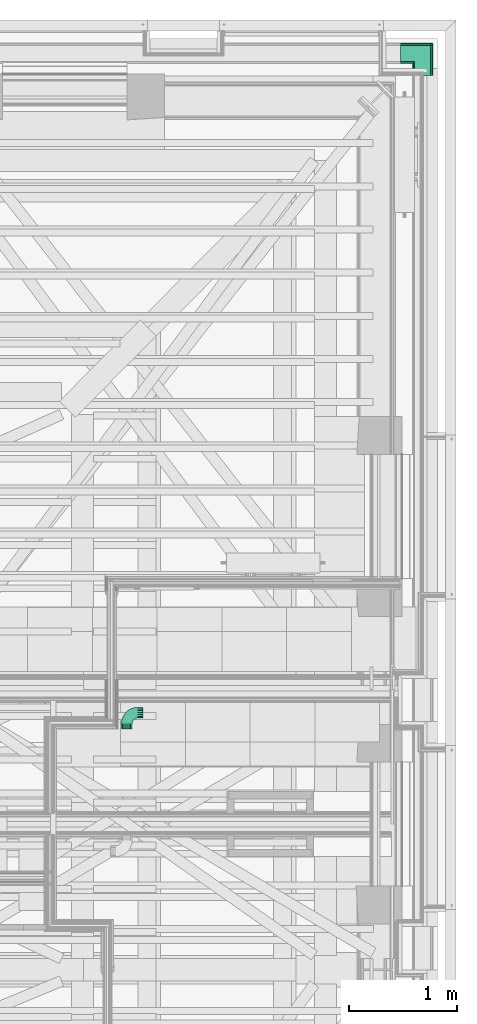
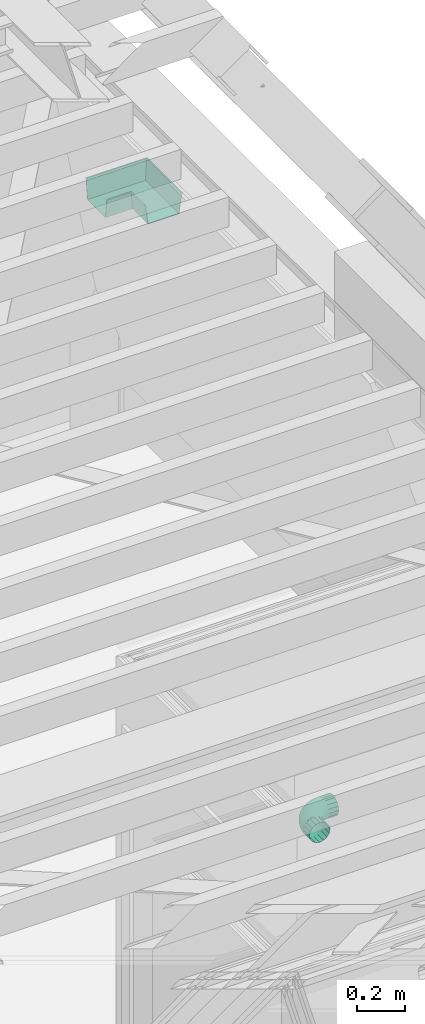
# One storey, part 179 of 183: 2 flow fittings.
"""IFC2X3 building model written with IfcOpenShell, lengths in metres."""

from ifc_helpers import new_model, entity, si_unit, converted_unit, derived_unit, money_unit, direction, frame, origin_with_axes, place, context, subcontext, project, spatial, open_shell, faceted_brep, surface_model, material, type_object, element, save


model = new_model("IFC2X3")

# Units and contexts
model_context = context("Model", 3, precision=1e-05, world=origin_with_axes(), true_north=direction((0.0, 1.0)))
body_context = subcontext(model_context, "Body", "Model", "MODEL_VIEW", scale=1.0)
ifc_project = project(units=[si_unit("LENGTHUNIT", "METRE"), si_unit("AREAUNIT", "SQUARE_METRE"), si_unit("VOLUMEUNIT", "CUBIC_METRE"), si_unit("ABSORBEDDOSEUNIT", "GRAY"), si_unit("AMOUNTOFSUBSTANCEUNIT", "MOLE"), si_unit("DOSEEQUIVALENTUNIT", "SIEVERT"), si_unit("ELECTRICCAPACITANCEUNIT", "FARAD"), si_unit("ELECTRICCHARGEUNIT", "COULOMB"), si_unit("ELECTRICCONDUCTANCEUNIT", "SIEMENS"), si_unit("ELECTRICCURRENTUNIT", "AMPERE"), si_unit("ELECTRICRESISTANCEUNIT", "OHM"), si_unit("ELECTRICVOLTAGEUNIT", "VOLT"), si_unit("ENERGYUNIT", "JOULE"), si_unit("FORCEUNIT", "NEWTON"), si_unit("FREQUENCYUNIT", "HERTZ"), si_unit("ILLUMINANCEUNIT", "LUX"), si_unit("INDUCTANCEUNIT", "HENRY"), si_unit("LUMINOUSFLUXUNIT", "LUMEN"), si_unit("LUMINOUSINTENSITYUNIT", "CANDELA"), si_unit("MAGNETICFLUXDENSITYUNIT", "TESLA"), si_unit("MAGNETICFLUXUNIT", "WEBER"), si_unit("MASSUNIT", "GRAM"), converted_unit("PLANEANGLEUNIT", "degree", entity("IfcReal", 0.0174532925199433), si_unit("PLANEANGLEUNIT", "RADIAN"), dimensions=[0, 0, 0, 0, 0, 0, 0]), si_unit("POWERUNIT", "WATT"), si_unit("PRESSUREUNIT", "PASCAL"), si_unit("RADIOACTIVITYUNIT", "BECQUEREL"), si_unit("SOLIDANGLEUNIT", "STERADIAN"), si_unit("THERMODYNAMICTEMPERATUREUNIT", "KELVIN"), si_unit("TIMEUNIT", "SECOND"), derived_unit("ACCELERATIONUNIT", [(si_unit("LENGTHUNIT", "METRE"), 1), (si_unit("TIMEUNIT", "SECOND"), -2)]), derived_unit("ANGULARVELOCITYUNIT", [(converted_unit("PLANEANGLEUNIT", "degree", entity("IfcReal", 0.0174532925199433), si_unit("PLANEANGLEUNIT", "RADIAN"), dimensions=[0, 0, 0, 0, 0, 0, 0]), 1), (si_unit("TIMEUNIT", "SECOND"), -1)]), derived_unit("CURVATUREUNIT", [(converted_unit("PLANEANGLEUNIT", "degree", entity("IfcReal", 0.0174532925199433), si_unit("PLANEANGLEUNIT", "RADIAN"), dimensions=[0, 0, 0, 0, 0, 0, 0]), 1), (si_unit("LENGTHUNIT", "METRE"), -1)]), derived_unit("DYNAMICVISCOSITYUNIT", [(si_unit("PRESSUREUNIT", "PASCAL"), 1), (si_unit("TIMEUNIT", "SECOND"), 1)]), derived_unit("HEATFLUXDENSITYUNIT", [(si_unit("POWERUNIT", "WATT"), 1), (si_unit("LENGTHUNIT", "METRE"), -2)]), derived_unit("HEATINGVALUEUNIT", [(si_unit("ENERGYUNIT", "JOULE"), 1), (si_unit("MASSUNIT", "GRAM"), -1)]), derived_unit("INTEGERCOUNTRATEUNIT", [(si_unit("TIMEUNIT", "SECOND"), -1)]), derived_unit("IONCONCENTRATIONUNIT", [(si_unit("MASSUNIT", "GRAM"), 1), (si_unit("VOLUMEUNIT", "CUBIC_METRE"), -1)]), derived_unit("ISOTHERMALMOISTURECAPACITYUNIT", [(si_unit("VOLUMEUNIT", "CUBIC_METRE"), 1), (si_unit("MASSUNIT", "GRAM"), -1)]), derived_unit("KINEMATICVISCOSITYUNIT", [(si_unit("AREAUNIT", "SQUARE_METRE"), 1), (si_unit("TIMEUNIT", "SECOND"), -1)]), derived_unit("LINEARFORCEUNIT", [(si_unit("FORCEUNIT", "NEWTON"), 1), (si_unit("LENGTHUNIT", "METRE"), -1)]), derived_unit("LINEARMOMENTUNIT", [(si_unit("FORCEUNIT", "NEWTON"), 1), (si_unit("LENGTHUNIT", "METRE"), -1)]), derived_unit("LINEARSTIFFNESSUNIT", [(si_unit("FORCEUNIT", "NEWTON"), 1), (si_unit("LENGTHUNIT", "METRE"), -1)]), derived_unit("LINEARVELOCITYUNIT", [(si_unit("LENGTHUNIT", "METRE"), 1), (si_unit("TIMEUNIT", "SECOND"), -1)]), derived_unit("LUMINOUSINTENSITYDISTRIBUTIONUNIT", [(si_unit("LUMINOUSINTENSITYUNIT", "CANDELA"), 1), (si_unit("LUMINOUSFLUXUNIT", "LUMEN"), -1)]), derived_unit("MASSDENSITYUNIT", [(si_unit("MASSUNIT", "GRAM"), 1), (si_unit("VOLUMEUNIT", "CUBIC_METRE"), -1)]), derived_unit("MASSFLOWRATEUNIT", [(si_unit("MASSUNIT", "GRAM"), 1), (si_unit("TIMEUNIT", "SECOND"), -1)]), derived_unit("MASSPERLENGTHUNIT", [(si_unit("MASSUNIT", "GRAM"), 1), (si_unit("LENGTHUNIT", "METRE"), -1)]), derived_unit("MODULUSOFELASTICITYUNIT", [(si_unit("FORCEUNIT", "NEWTON"), 1), (si_unit("AREAUNIT", "SQUARE_METRE"), -1)]), derived_unit("MODULUSOFLINEARSUBGRADEREACTIONUNIT", [(si_unit("FORCEUNIT", "NEWTON"), 1), (si_unit("LENGTHUNIT", "METRE"), -2)]), derived_unit("MODULUSOFROTATIONALSUBGRADEREACTIONUNIT", [(si_unit("FORCEUNIT", "NEWTON"), 1), (si_unit("LENGTHUNIT", "METRE"), 1)]), derived_unit("MODULUSOFSUBGRADEREACTIONUNIT", [(si_unit("FORCEUNIT", "NEWTON"), 1), (si_unit("VOLUMEUNIT", "CUBIC_METRE"), -1)]), derived_unit("MOISTUREDIFFUSIVITYUNIT", [(si_unit("VOLUMEUNIT", "CUBIC_METRE"), 1), (si_unit("TIMEUNIT", "SECOND"), -1)]), derived_unit("MOLECULARWEIGHTUNIT", [(si_unit("MASSUNIT", "GRAM"), 1), (si_unit("AMOUNTOFSUBSTANCEUNIT", "MOLE"), -1)]), derived_unit("PLANARFORCEUNIT", [(si_unit("FORCEUNIT", "NEWTON"), 1), (si_unit("LENGTHUNIT", "METRE"), -2)]), derived_unit("ROTATIONALFREQUENCYUNIT", [(si_unit("TIMEUNIT", "SECOND"), -1)]), derived_unit("ROTATIONALMASSUNIT", [(si_unit("MASSUNIT", "GRAM"), 1), (si_unit("LENGTHUNIT", "METRE"), 2)]), derived_unit("ROTATIONALSTIFFNESSUNIT", [(si_unit("FORCEUNIT", "NEWTON"), 1), (si_unit("LENGTHUNIT", "METRE"), 1), (converted_unit("PLANEANGLEUNIT", "degree", entity("IfcReal", 0.0174532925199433), si_unit("PLANEANGLEUNIT", "RADIAN"), dimensions=[0, 0, 0, 0, 0, 0, 0]), -1)]), derived_unit("SECTIONAREAINTEGRALUNIT", [(si_unit("LENGTHUNIT", "METRE"), 5)]), derived_unit("SECTIONMODULUSUNIT", [(si_unit("LENGTHUNIT", "METRE"), 3)]), derived_unit("SHEARMODULUSUNIT", [(si_unit("FORCEUNIT", "NEWTON"), 1), (si_unit("AREAUNIT", "SQUARE_METRE"), -1)]), derived_unit("SOUNDPOWERUNIT", [(si_unit("ENERGYUNIT", "JOULE"), 1), (si_unit("TIMEUNIT", "SECOND"), -1)]), derived_unit("SPECIFICHEATCAPACITYUNIT", [(si_unit("FORCEUNIT", "NEWTON"), 1), (si_unit("MASSUNIT", "GRAM"), -1), (si_unit("THERMODYNAMICTEMPERATUREUNIT", "KELVIN"), -1)]), derived_unit("TEMPERATUREGRADIENTUNIT", [(si_unit("THERMODYNAMICTEMPERATUREUNIT", "KELVIN"), 1), (si_unit("LENGTHUNIT", "METRE"), -1)]), derived_unit("THERMALADMITTANCEUNIT", [(si_unit("POWERUNIT", "WATT"), 1), (si_unit("AREAUNIT", "SQUARE_METRE"), -1), (si_unit("THERMODYNAMICTEMPERATUREUNIT", "KELVIN"), -1)]), derived_unit("THERMALCONDUCTANCEUNIT", [(si_unit("POWERUNIT", "WATT"), 1), (si_unit("LENGTHUNIT", "METRE"), -1), (si_unit("THERMODYNAMICTEMPERATUREUNIT", "KELVIN"), -1)]), derived_unit("THERMALEXPANSIONCOEFFICIENTUNIT", [(si_unit("THERMODYNAMICTEMPERATUREUNIT", "KELVIN"), -1)]), derived_unit("THERMALRESISTANCEUNIT", [(si_unit("AREAUNIT", "SQUARE_METRE"), 1), (si_unit("POWERUNIT", "WATT"), -1)]), derived_unit("THERMALTRANSMITTANCEUNIT", [(si_unit("POWERUNIT", "WATT"), 1), (si_unit("AREAUNIT", "SQUARE_METRE"), -1), (si_unit("THERMODYNAMICTEMPERATUREUNIT", "KELVIN"), -1)]), derived_unit("TORQUEUNIT", [(si_unit("FORCEUNIT", "NEWTON"), 1), (si_unit("LENGTHUNIT", "METRE"), 1)]), derived_unit("VAPORPERMEABILITYUNIT", [(si_unit("MASSUNIT", "GRAM"), 1), (si_unit("TIMEUNIT", "SECOND"), -1)]), derived_unit("VOLUMETRICFLOWRATEUNIT", [(si_unit("VOLUMEUNIT", "CUBIC_METRE"), 1), (si_unit("TIMEUNIT", "SECOND"), -1)]), derived_unit("WARPINGCONSTANTUNIT", [(si_unit("LENGTHUNIT", "METRE"), 6)]), derived_unit("WARPINGMOMENTUNIT", [(si_unit("FORCEUNIT", "NEWTON"), 1), (si_unit("LENGTHUNIT", "METRE"), 2)]), money_unit("GBP")], contexts=[model_context])

# Site, building, storey, space
site_placement = place(None, origin_with_axes())
site = spatial("IfcSite", under=ifc_project, at=site_placement, Name="Site", CompositionType="ELEMENT")
building_placement = place(site_placement, origin_with_axes())
building = spatial("IfcBuilding", under=site, at=building_placement, Name="Building01", CompositionType="ELEMENT")
storey_placement = place(building_placement, frame((0.0, 0.0, 5.15), z_axis=(0.0, 0.0, 1.0), x_axis=(1.0, 0.0, 0.0)))
storey = spatial("IfcBuildingStorey", under=building, at=storey_placement, Name="1F", CompositionType="ELEMENT", Elevation=5.15)
space_placement = place(storey_placement, frame((23.258821, 8.349915, 9.81), z_axis=(0.0, 0.0, 1.0), x_axis=(0.0, -1.0, 0.0)))
space = spatial("IfcSpace", under=storey, at=space_placement, Name="ensuite", CompositionType="ELEMENT", InteriorOrExteriorSpace="NOTDEFINED")

# Flow fittings
ifc_material_1 = material(Name="M_BSUK_Ventilation")
duct_fitting_type = type_object("IfcDuctFittingType", Name="M-Roundelbow-DefaultRound", PredefinedType="BEND")
placement = place(building_placement, origin_with_axes())
flow_fitting_1_placement = place(placement, frame((24.03, 8.482559, 17.28), z_axis=(0.0, 1.0, 0.0), x_axis=(-1.0, 0.0, 0.0)))
element("IfcFlowFitting", 1, at=flow_fitting_1_placement, inside=space, type_object=duct_fitting_type, material=ifc_material_1, Name="M-Roundelbow-DefaultRound", ObjectType="M-Roundelbow-DefaultRound", context=body_context, shape_type="SurfaceModel", body=[
    surface_model("IfcShellBasedSurfaceModel", [(0.008112, -0.01349, -0.048784), (0.0, -0.01349, -0.048146), (0.0, 0.0, -0.05), (0.007822, 0.0, -0.050616), (0.016024, -0.01349, -0.050684), (0.015451, 0.0, -0.052447), (0.023541, -0.01349, -0.053798), (0.0227, 0.0, -0.05545), (0.030479, -0.01349, -0.058049), (0.029389, 0.0, -0.059549), (0.036666, -0.01349, -0.063334), (0.035355, 0.0, -0.064645), (0.041951, -0.01349, -0.069521), (0.040451, 0.0, -0.070611), (0.046202, -0.01349, -0.076459), (0.04455, 0.0, -0.0773), (0.049316, -0.01349, -0.083976), (0.047553, 0.0, -0.084549), (0.051216, -0.01349, -0.091888), (0.049384, 0.0, -0.092178), (0.051854, -0.01349, -0.1), (0.05, 0.0, -0.1), (0.00896, -0.025979, -0.043426), (0.0, -0.025979, -0.042721), (0.0177, -0.025979, -0.045524), (0.026004, -0.025979, -0.048964), (0.033668, -0.025979, -0.05366), (0.040502, -0.025979, -0.059498), (0.04634, -0.025979, -0.066332), (0.051036, -0.025979, -0.073996), (0.054476, -0.025979, -0.0823), (0.056574, -0.025979, -0.09104), (0.057279, -0.025979, -0.1), (0.010305, -0.036542, -0.034939), (0.0, -0.036542, -0.034128), (0.020356, -0.036542, -0.037352), (0.029905, -0.036542, -0.041307), (0.038719, -0.036542, -0.046708), (0.046579, -0.036542, -0.053421), (0.053292, -0.036542, -0.061281), (0.058693, -0.036542, -0.070095), (0.062648, -0.036542, -0.079644), (0.065061, -0.036542, -0.089695), (0.065872, -0.036542, -0.1), (0.012045, -0.044394, -0.023951), (0.0, -0.044394, -0.023003), (0.023793, -0.044394, -0.026772), (0.034956, -0.044394, -0.031395), (0.045258, -0.044394, -0.037708), (0.054445, -0.044394, -0.045555), (0.062292, -0.044394, -0.054742), (0.068605, -0.044394, -0.065044), (0.073228, -0.044394, -0.076207), (0.076049, -0.044394, -0.087955), (0.076997, -0.044394, -0.1), (0.014052, -0.048954, -0.011279), (0.0, -0.048954, -0.010173), (0.027758, -0.048954, -0.014569), (0.040781, -0.048954, -0.019963), (0.052799, -0.048954, -0.027328), (0.063517, -0.048954, -0.036483), (0.072672, -0.048954, -0.047201), (0.080037, -0.048954, -0.059219), (0.085431, -0.048954, -0.072242), (0.088721, -0.048954, -0.085948), (0.089827, -0.048954, -0.1), (0.016177, -0.049883, 0.002139), (0.0, -0.049883, 0.003412), (0.031956, -0.049883, -0.001649), (0.046948, -0.049883, -0.007859), (0.060784, -0.049883, -0.016338), (0.073123, -0.049883, -0.026877), (0.083662, -0.049883, -0.039216), (0.092141, -0.049883, -0.053052), (0.098351, -0.049883, -0.068044), (0.102139, -0.049883, -0.083823), (0.103412, -0.049883, -0.1), (0.018263, -0.047113, 0.015307), (0.0, -0.047113, 0.016744), (0.036076, -0.047113, 0.01103), (0.053001, -0.047113, 0.00402), (0.06862, -0.047113, -0.005552), (0.08255, -0.047113, -0.01745), (0.094448, -0.047113, -0.03138), (0.10402, -0.047113, -0.046999), (0.11103, -0.047113, -0.063924), (0.115307, -0.047113, -0.081737), (0.116744, -0.047113, -0.1), (0.020154, -0.040848, 0.027248), (0.0, -0.040848, 0.028834), (0.039812, -0.040848, 0.022528), (0.058489, -0.040848, 0.014792), (0.075727, -0.040848, 0.004229), (0.091099, -0.040848, -0.008901), (0.104229, -0.040848, -0.024273), (0.114792, -0.040848, -0.041511), (0.122528, -0.040848, -0.060188), (0.127248, -0.040848, -0.079846), (0.128834, -0.040848, -0.1), (0.021711, -0.031554, 0.037077), (0.0, -0.031554, 0.038786), (0.042887, -0.031554, 0.031993), (0.063007, -0.031554, 0.023659), (0.081576, -0.031554, 0.01228), (0.098136, -0.031554, -0.001864), (0.11228, -0.031554, -0.018424), (0.123659, -0.031554, -0.036993), (0.131993, -0.031554, -0.057113), (0.137077, -0.031554, -0.078289), (0.138786, -0.031554, -0.1), (0.022818, -0.01992, 0.044065), (0.0, -0.01992, 0.045861), (0.045073, -0.01992, 0.038722), (0.066219, -0.01992, 0.029963), (0.085735, -0.01992, 0.018004), (0.103139, -0.01992, 0.003139), (0.118004, -0.01992, -0.014265), (0.129963, -0.01992, -0.033781), (0.138722, -0.01992, -0.054927), (0.144065, -0.01992, -0.077182), (0.145861, -0.01992, -0.1), (0.023392, -0.006808, 0.047693), (0.0, -0.006808, 0.049534), (0.046209, -0.006808, 0.042216), (0.067887, -0.006808, 0.033236), (0.087894, -0.006808, 0.020976), (0.105737, -0.006808, 0.005737), (0.120976, -0.006808, -0.012106), (0.133236, -0.006808, -0.032113), (0.142216, -0.006808, -0.053791), (0.147693, -0.006808, -0.076608), (0.149534, -0.006808, -0.1), (0.023392, 0.006808, 0.047693), (0.0, 0.006808, 0.049534), (0.046209, 0.006808, 0.042216), (0.067887, 0.006808, 0.033236), (0.087894, 0.006808, 0.020976), (0.105737, 0.006808, 0.005737), (0.120976, 0.006808, -0.012106), (0.133236, 0.006808, -0.032113), (0.142216, 0.006808, -0.053791), (0.147693, 0.006808, -0.076608), (0.149534, 0.006808, -0.1), (0.022818, 0.01992, 0.044065), (0.0, 0.01992, 0.045861), (0.045073, 0.01992, 0.038722), (0.066219, 0.01992, 0.029963), (0.085735, 0.01992, 0.018004), (0.103139, 0.01992, 0.003139), (0.118004, 0.01992, -0.014265), (0.129963, 0.01992, -0.033781), (0.138722, 0.01992, -0.054927), (0.144065, 0.01992, -0.077182), (0.145861, 0.01992, -0.1), (0.021711, 0.031554, 0.037077), (0.0, 0.031554, 0.038786), (0.042887, 0.031554, 0.031993), (0.063007, 0.031554, 0.023659), (0.081576, 0.031554, 0.01228), (0.098136, 0.031554, -0.001864), (0.11228, 0.031554, -0.018424), (0.123659, 0.031554, -0.036993), (0.131993, 0.031554, -0.057113), (0.137077, 0.031554, -0.078289), (0.138786, 0.031554, -0.1), (0.020154, 0.040848, 0.027248), (0.0, 0.040848, 0.028834), (0.039812, 0.040848, 0.022528), (0.058489, 0.040848, 0.014792), (0.075727, 0.040848, 0.004229), (0.091099, 0.040848, -0.008901), (0.104229, 0.040848, -0.024273), (0.114792, 0.040848, -0.041511), (0.122528, 0.040848, -0.060188), (0.127248, 0.040848, -0.079846), (0.128834, 0.040848, -0.1), (0.018263, 0.047113, 0.015307), (0.0, 0.047113, 0.016744), (0.036076, 0.047113, 0.01103), (0.053001, 0.047113, 0.00402), (0.06862, 0.047113, -0.005552), (0.08255, 0.047113, -0.01745), (0.094448, 0.047113, -0.03138), (0.10402, 0.047113, -0.046999), (0.11103, 0.047113, -0.063924), (0.115307, 0.047113, -0.081737), (0.116744, 0.047113, -0.1), (0.016177, 0.049883, 0.002139), (0.0, 0.049883, 0.003412), (0.031956, 0.049883, -0.001649), (0.046948, 0.049883, -0.007859), (0.060784, 0.049883, -0.016338), (0.073123, 0.049883, -0.026877), (0.083662, 0.049883, -0.039216), (0.092141, 0.049883, -0.053052), (0.098351, 0.049883, -0.068044), (0.102139, 0.049883, -0.083823), (0.103412, 0.049883, -0.1), (0.014052, 0.048954, -0.011279), (0.0, 0.048954, -0.010173), (0.027758, 0.048954, -0.014569), (0.040781, 0.048954, -0.019963), (0.052799, 0.048954, -0.027328), (0.063517, 0.048954, -0.036483), (0.072672, 0.048954, -0.047201), (0.080037, 0.048954, -0.059219), (0.085431, 0.048954, -0.072242), (0.088721, 0.048954, -0.085948), (0.089827, 0.048954, -0.1), (0.012045, 0.044394, -0.023951), (0.0, 0.044394, -0.023003), (0.023793, 0.044394, -0.026772), (0.034956, 0.044394, -0.031395), (0.045258, 0.044394, -0.037708), (0.054445, 0.044394, -0.045555), (0.062292, 0.044394, -0.054742), (0.068605, 0.044394, -0.065044), (0.073228, 0.044394, -0.076207), (0.076049, 0.044394, -0.087955), (0.076997, 0.044394, -0.1), (0.010305, 0.036542, -0.034939), (0.0, 0.036542, -0.034128), (0.020356, 0.036542, -0.037352), (0.029905, 0.036542, -0.041307), (0.038719, 0.036542, -0.046708), (0.046579, 0.036542, -0.053421), (0.053292, 0.036542, -0.061281), (0.058693, 0.036542, -0.070095), (0.062648, 0.036542, -0.079644), (0.065061, 0.036542, -0.089695), (0.065872, 0.036542, -0.1), (0.00896, 0.025979, -0.043426), (0.0, 0.025979, -0.042721), (0.0177, 0.025979, -0.045524), (0.026004, 0.025979, -0.048964), (0.033668, 0.025979, -0.05366), (0.040502, 0.025979, -0.059498), (0.04634, 0.025979, -0.066332), (0.051036, 0.025979, -0.073996), (0.054476, 0.025979, -0.0823), (0.056574, 0.025979, -0.09104), (0.057279, 0.025979, -0.1), (0.008112, 0.01349, -0.048784), (0.0, 0.01349, -0.048146), (0.016024, 0.01349, -0.050684), (0.023541, 0.01349, -0.053798), (0.030479, 0.01349, -0.058049), (0.036666, 0.01349, -0.063334), (0.041951, 0.01349, -0.069521), (0.046202, 0.01349, -0.076459), (0.049316, 0.01349, -0.083976), (0.051216, 0.01349, -0.091888), (0.051854, 0.01349, -0.1), (-0.05, 0.0, -0.05), (0.0, -0.019134, -0.046194), (-0.05, -0.019134, -0.046194), (0.0, -0.035355, -0.035355), (-0.05, -0.035355, -0.035355), (0.0, -0.046194, -0.019134), (-0.05, -0.046194, -0.019134), (0.0, -0.05, 0.0), (-0.05, -0.05, 0.0), (0.0, -0.046194, 0.019134), (-0.05, -0.046194, 0.019134), (0.0, -0.035355, 0.035355), (-0.05, -0.035355, 0.035355), (0.0, -0.019134, 0.046194), (-0.05, -0.019134, 0.046194), (0.0, 0.0, 0.05), (-0.05, 0.0, 0.05), (0.0, 0.019134, 0.046194), (-0.05, 0.019134, 0.046194), (0.0, 0.035355, 0.035355), (-0.05, 0.035355, 0.035355), (0.0, 0.046194, 0.019134), (-0.05, 0.046194, 0.019134), (0.0, 0.05, 0.0), (-0.05, 0.05, 0.0), (0.0, 0.046194, -0.019134), (-0.05, 0.046194, -0.019134), (0.0, 0.035355, -0.035355), (-0.05, 0.035355, -0.035355), (0.0, 0.019134, -0.046194), (-0.05, 0.019134, -0.046194), (0.05, 0.0, -0.15), (0.053806, 0.019134, -0.1), (0.053806, 0.019134, -0.15), (0.064645, 0.035355, -0.1), (0.064645, 0.035355, -0.15), (0.080866, 0.046194, -0.1), (0.080866, 0.046194, -0.15), (0.1, 0.05, -0.1), (0.1, 0.05, -0.15), (0.119134, 0.046194, -0.1), (0.119134, 0.046194, -0.15), (0.135355, 0.035355, -0.1), (0.135355, 0.035355, -0.15), (0.146194, 0.019134, -0.1), (0.146194, 0.019134, -0.15), (0.15, 0.0, -0.1), (0.15, 0.0, -0.15), (0.146194, -0.019134, -0.1), (0.146194, -0.019134, -0.15), (0.135355, -0.035355, -0.1), (0.135355, -0.035355, -0.15), (0.119134, -0.046194, -0.1), (0.119134, -0.046194, -0.15), (0.1, -0.05, -0.1), (0.1, -0.05, -0.15), (0.080866, -0.046194, -0.1), (0.080866, -0.046194, -0.15), (0.064645, -0.035355, -0.1), (0.064645, -0.035355, -0.15), (0.053806, -0.019134, -0.1), (0.053806, -0.019134, -0.15)], [open_shell([[[0, 1, 2, 3]], [[4, 0, 3, 5]], [[6, 4, 5, 7]], [[8, 6, 7, 9]], [[10, 8, 9, 11]], [[12, 10, 11, 13]], [[14, 12, 13, 15]], [[16, 14, 15, 17]], [[18, 16, 17, 19]], [[20, 18, 19, 21]], [[22, 23, 1, 0]], [[24, 22, 0, 4]], [[25, 24, 4, 6]], [[26, 25, 6, 8]], [[27, 26, 8, 10]], [[28, 27, 10, 12]], [[29, 28, 12, 14]], [[30, 29, 14, 16]], [[31, 30, 16, 18]], [[32, 31, 18, 20]], [[33, 34, 23, 22]], [[35, 33, 22, 24]], [[36, 35, 24, 25]], [[37, 36, 25, 26]], [[38, 37, 26, 27]], [[39, 38, 27, 28]], [[40, 39, 28, 29]], [[41, 40, 29, 30]], [[42, 41, 30, 31]], [[43, 42, 31, 32]], [[44, 45, 34, 33]], [[46, 44, 33, 35]], [[47, 46, 35, 36]], [[48, 47, 36, 37]], [[49, 48, 37, 38]], [[50, 49, 38, 39]], [[51, 50, 39, 40]], [[52, 51, 40, 41]], [[53, 52, 41, 42]], [[54, 53, 42, 43]], [[55, 56, 45, 44]], [[57, 55, 44, 46]], [[58, 57, 46, 47]], [[59, 58, 47, 48]], [[60, 59, 48, 49]], [[61, 60, 49, 50]], [[62, 61, 50, 51]], [[63, 62, 51, 52]], [[64, 63, 52, 53]], [[65, 64, 53, 54]], [[66, 67, 56, 55]], [[68, 66, 55, 57]], [[69, 68, 57, 58]], [[70, 69, 58, 59]], [[71, 70, 59, 60]], [[72, 71, 60, 61]], [[73, 72, 61, 62]], [[74, 73, 62, 63]], [[75, 74, 63, 64]], [[76, 75, 64, 65]], [[77, 78, 67, 66]], [[79, 77, 66, 68]], [[80, 79, 68, 69]], [[81, 80, 69, 70]], [[82, 81, 70, 71]], [[83, 82, 71, 72]], [[84, 83, 72, 73]], [[85, 84, 73, 74]], [[86, 85, 74, 75]], [[87, 86, 75, 76]], [[88, 89, 78, 77]], [[90, 88, 77, 79]], [[91, 90, 79, 80]], [[92, 91, 80, 81]], [[93, 92, 81, 82]], [[94, 93, 82, 83]], [[95, 94, 83, 84]], [[96, 95, 84, 85]], [[97, 96, 85, 86]], [[98, 97, 86, 87]], [[99, 100, 89, 88]], [[101, 99, 88, 90]], [[102, 101, 90, 91]], [[103, 102, 91, 92]], [[104, 103, 92, 93]], [[105, 104, 93, 94]], [[106, 105, 94, 95]], [[107, 106, 95, 96]], [[108, 107, 96, 97]], [[109, 108, 97, 98]], [[110, 111, 100, 99]], [[112, 110, 99, 101]], [[113, 112, 101, 102]], [[114, 113, 102, 103]], [[115, 114, 103, 104]], [[116, 115, 104, 105]], [[117, 116, 105, 106]], [[118, 117, 106, 107]], [[119, 118, 107, 108]], [[120, 119, 108, 109]], [[121, 122, 111, 110]], [[123, 121, 110, 112]], [[124, 123, 112, 113]], [[125, 124, 113, 114]], [[126, 125, 114, 115]], [[127, 126, 115, 116]], [[128, 127, 116, 117]], [[129, 128, 117, 118]], [[130, 129, 118, 119]], [[131, 130, 119, 120]], [[132, 133, 122, 121]], [[134, 132, 121, 123]], [[135, 134, 123, 124]], [[136, 135, 124, 125]], [[137, 136, 125, 126]], [[138, 137, 126, 127]], [[139, 138, 127, 128]], [[140, 139, 128, 129]], [[141, 140, 129, 130]], [[142, 141, 130, 131]], [[143, 144, 133, 132]], [[145, 143, 132, 134]], [[146, 145, 134, 135]], [[147, 146, 135, 136]], [[148, 147, 136, 137]], [[149, 148, 137, 138]], [[150, 149, 138, 139]], [[151, 150, 139, 140]], [[152, 151, 140, 141]], [[153, 152, 141, 142]], [[154, 155, 144, 143]], [[156, 154, 143, 145]], [[157, 156, 145, 146]], [[158, 157, 146, 147]], [[159, 158, 147, 148]], [[160, 159, 148, 149]], [[161, 160, 149, 150]], [[162, 161, 150, 151]], [[163, 162, 151, 152]], [[164, 163, 152, 153]], [[165, 166, 155, 154]], [[167, 165, 154, 156]], [[168, 167, 156, 157]], [[169, 168, 157, 158]], [[170, 169, 158, 159]], [[171, 170, 159, 160]], [[172, 171, 160, 161]], [[173, 172, 161, 162]], [[174, 173, 162, 163]], [[175, 174, 163, 164]], [[176, 177, 166, 165]], [[178, 176, 165, 167]], [[179, 178, 167, 168]], [[180, 179, 168, 169]], [[181, 180, 169, 170]], [[182, 181, 170, 171]], [[183, 182, 171, 172]], [[184, 183, 172, 173]], [[185, 184, 173, 174]], [[186, 185, 174, 175]], [[187, 188, 177, 176]], [[189, 187, 176, 178]], [[190, 189, 178, 179]], [[191, 190, 179, 180]], [[192, 191, 180, 181]], [[193, 192, 181, 182]], [[194, 193, 182, 183]], [[195, 194, 183, 184]], [[196, 195, 184, 185]], [[197, 196, 185, 186]], [[198, 199, 188, 187]], [[200, 198, 187, 189]], [[201, 200, 189, 190]], [[202, 201, 190, 191]], [[203, 202, 191, 192]], [[204, 203, 192, 193]], [[205, 204, 193, 194]], [[206, 205, 194, 195]], [[207, 206, 195, 196]], [[208, 207, 196, 197]], [[209, 210, 199, 198]], [[211, 209, 198, 200]], [[212, 211, 200, 201]], [[213, 212, 201, 202]], [[214, 213, 202, 203]], [[215, 214, 203, 204]], [[216, 215, 204, 205]], [[217, 216, 205, 206]], [[218, 217, 206, 207]], [[219, 218, 207, 208]], [[220, 221, 210, 209]], [[222, 220, 209, 211]], [[223, 222, 211, 212]], [[224, 223, 212, 213]], [[225, 224, 213, 214]], [[226, 225, 214, 215]], [[227, 226, 215, 216]], [[228, 227, 216, 217]], [[229, 228, 217, 218]], [[230, 229, 218, 219]], [[231, 232, 221, 220]], [[233, 231, 220, 222]], [[234, 233, 222, 223]], [[235, 234, 223, 224]], [[236, 235, 224, 225]], [[237, 236, 225, 226]], [[238, 237, 226, 227]], [[239, 238, 227, 228]], [[240, 239, 228, 229]], [[241, 240, 229, 230]], [[242, 243, 232, 231]], [[244, 242, 231, 233]], [[245, 244, 233, 234]], [[246, 245, 234, 235]], [[247, 246, 235, 236]], [[248, 247, 236, 237]], [[249, 248, 237, 238]], [[250, 249, 238, 239]], [[251, 250, 239, 240]], [[252, 251, 240, 241]], [[3, 2, 243, 242]], [[5, 3, 242, 244]], [[7, 5, 244, 245]], [[9, 7, 245, 246]], [[11, 9, 246, 247]], [[13, 11, 247, 248]], [[15, 13, 248, 249]], [[17, 15, 249, 250]], [[19, 17, 250, 251]], [[21, 19, 251, 252]], [[253, 2, 254, 255]], [[255, 254, 256, 257]], [[257, 256, 258, 259]], [[259, 258, 260, 261]], [[261, 260, 262, 263]], [[263, 262, 264, 265]], [[265, 264, 266, 267]], [[267, 266, 268, 269]], [[269, 268, 270, 271]], [[271, 270, 272, 273]], [[273, 272, 274, 275]], [[275, 274, 276, 277]], [[277, 276, 278, 279]], [[279, 278, 280, 281]], [[281, 280, 282, 283]], [[283, 282, 2, 253]], [[284, 21, 285, 286]], [[286, 285, 287, 288]], [[288, 287, 289, 290]], [[290, 289, 291, 292]], [[292, 291, 293, 294]], [[294, 293, 295, 296]], [[296, 295, 297, 298]], [[298, 297, 299, 300]], [[300, 299, 301, 302]], [[302, 301, 303, 304]], [[304, 303, 305, 306]], [[306, 305, 307, 308]], [[308, 307, 309, 310]], [[310, 309, 311, 312]], [[312, 311, 313, 314]], [[314, 313, 21, 284]]])]),
])
ifc_material_2 = material(Name="A_BSUK_RainwaterDrainageSystems")
pipe_fitting_type = type_object("IfcPipeFittingType", Name="A-RainwaterDrainageSystems-GutterCorner", PredefinedType="NOTDEFINED")
flow_fitting_2_placement = place(storey_placement, frame((26.465654, 14.385653, 10.629268), z_axis=(0.0, 0.0, 1.0), x_axis=(1.0, 0.0, 0.0)))
element("IfcFlowFitting", 2, at=flow_fitting_2_placement, inside=storey, type_object=pipe_fitting_type, material=ifc_material_2, Name="A-RainwaterDrainageSystems-GutterCorner", ObjectType="A-RainwaterDrainageSystems-GutterCorner", context=body_context, shape_type="Brep", body=[
    faceted_brep([(0.111195, 1e-06, 0.099145), (0.116849, 1e-06, 0.099145), (0.129902, 1e-06, 0.0), (0.281294, 1e-06, 0.0), (0.294346, 1e-06, 0.099145), (0.3, 1e-06, 0.099145), (0.3, 1e-06, 0.100732), (0.292954, 1e-06, 0.100732), (0.279902, 1e-06, 0.001588), (0.131294, 1e-06, 0.001588), (0.118241, 1e-06, 0.100732), (0.111195, 1e-06, 0.100732), (0.0, 0.111195, 0.100732), (0.0, 0.118241, 0.100732), (0.0, 0.131294, 0.001588), (0.0, 0.279902, 0.001588), (0.0, 0.292954, 0.100732), (0.0, 0.300001, 0.100732), (0.0, 0.300001, 0.099145), (0.0, 0.294347, 0.099145), (0.0, 0.281294, 0.0), (0.0, 0.129902, 0.0), (0.0, 0.116849, 0.099145), (0.0, 0.111195, 0.099145), (0.111195, 0.111195, 0.100732), (0.111195, 0.111195, 0.099145), (0.118241, 0.118241, 0.100732), (0.131294, 0.131294, 0.001588), (0.279902, 0.279902, 0.001588), (0.292954, 0.292954, 0.100732), (0.3, 0.300001, 0.100732), (0.3, 0.300001, 0.099145), (0.294346, 0.294347, 0.099145), (0.281294, 0.281294, 0.0), (0.129902, 0.129902, 0.0), (0.116849, 0.116849, 0.099145)], [[[0, 1, 2, 3, 4, 5, 6, 7, 8, 9, 10, 11]], [[12, 13, 14, 15, 16, 17, 18, 19, 20, 21, 22, 23]], [[24, 12, 23, 25]], [[10, 26, 13, 12, 24, 11]], [[27, 14, 13, 26]], [[9, 27, 26, 10]], [[8, 28, 15, 14, 27, 9]], [[29, 16, 15, 28]], [[7, 29, 28, 8]], [[6, 30, 17, 16, 29, 7]], [[31, 18, 17, 30]], [[5, 31, 30, 6]], [[4, 32, 19, 18, 31, 5]], [[33, 20, 19, 32]], [[3, 33, 32, 4]], [[2, 34, 21, 20, 33, 3]], [[35, 22, 21, 34]], [[1, 35, 34, 2]], [[0, 25, 23, 22, 35, 1]], [[11, 24, 25, 0]]]),
])

save(model, "model.ifc")
